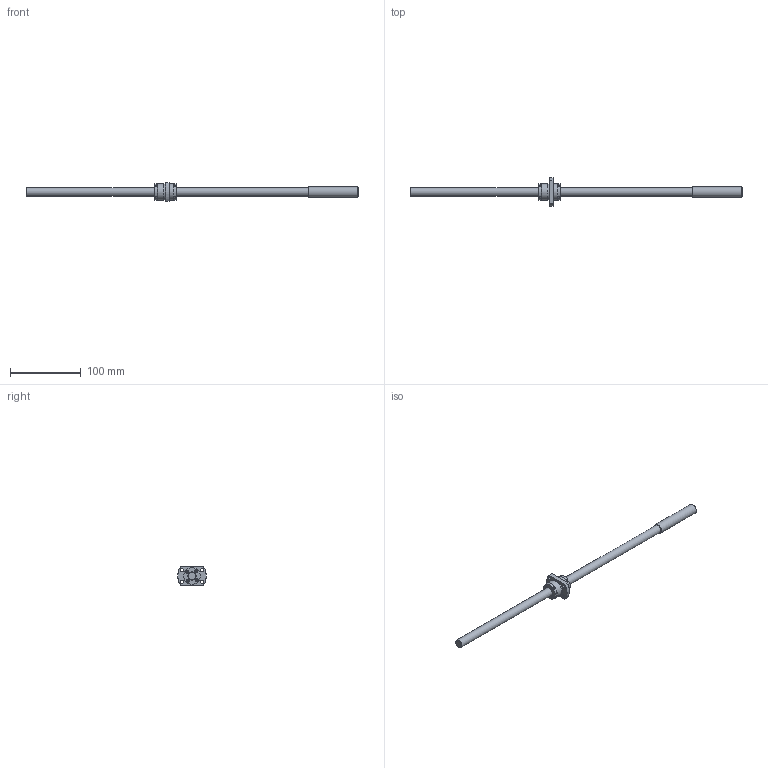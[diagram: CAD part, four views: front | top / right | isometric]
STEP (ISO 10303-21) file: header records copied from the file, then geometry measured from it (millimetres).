
FILE_DESCRIPTION(/* description */ ('STEP AP214'),/* implementation_level */ '2;1');
FILE_NAME(/* name */ 'SRT1210-396R470C7A0X(182.5None)',/* time_stamp */ '2026-08-06T15:13:30+02:00',/* author */ ('License CC BY-ND 4.0'),/* organization */ ('CADENAS'),/* preprocessor_version */ 'ST-DEVELOPER v20',/* originating_system */ 'PARTsolutions',/* authorisation */ ' ');
FILE_SCHEMA (('AUTOMOTIVE_DESIGN {1 0 10303 214 3 1 1}'));
Length unit declared in the file: millimetre
Products named in the file (3): SRT1210-396R470C7A0X(182.5None); SRT1210-396R470ACt7None82Shaft; SRT1210Nut
Assembly tree (2 placements, depth 2):
  SRT1210-396R470C7A0X(182.5None)
    SRT1210-396R470ACt7None82Shaft
    SRT1210Nut
Bounding box: 470 x 41 x 26 mm (x, y, z)
Volume: 68958.7 mm3; surface area: 24385.9 mm2
Topology: 2 solids, 2 shells, 138 faces, 334 edges, 222 vertices
Faces by surface type: plane 100, cylinder 30, cone 8
Full cylindrical faces by diameter (mm): 3.8 x8, 4.5 x4, 12 x2, 14.2 x1, 23.5 x3, 24 x2
Entity records: 3971 total; most frequent: CARTESIAN_POINT 689, DIRECTION 662, ORIENTED_EDGE 612, EDGE_CURVE 306, AXIS2_PLACEMENT_3D 223, VERTEX_POINT 218, LINE 216, VECTOR 216
